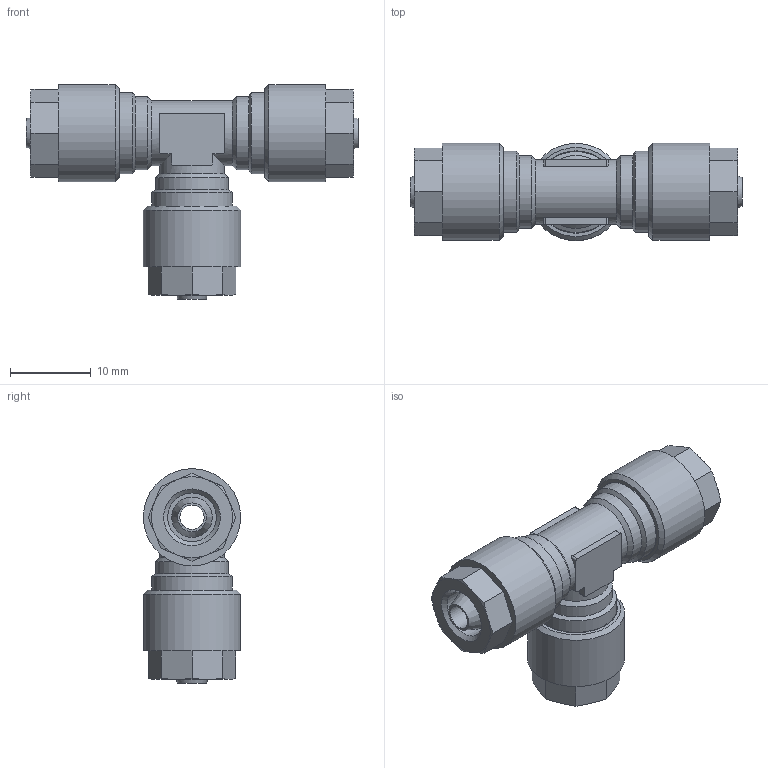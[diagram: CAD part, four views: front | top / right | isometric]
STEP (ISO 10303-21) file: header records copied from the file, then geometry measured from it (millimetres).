
FILE_DESCRIPTION(/* description */ (''),/* implementation_level */ '2;1');
FILE_NAME(/* name */ '12303_309_6-4_10.03.16',/* time_stamp */ '2016-03-10T10:52:13+01:00',/* author */ (''),/* organization */ (''),/* preprocessor_version */ 'ST-DEVELOPER v14',/* originating_system */ 'HiCAD 2013 1802.4 Build 509',/* authorisation */ '');
FILE_SCHEMA (('AUTOMOTIVE_DESIGN { 1 0 10303 214 1 1 1 1 }'));
Length unit declared in the file: millimetre
Products named in the file (5): Root; R12303; 17005
Assembly tree (4 placements, depth 2):
  Root
    R12303
    17005
    17005
    17005
Bounding box: 41 x 12 x 26.5 mm (x, y, z)
Volume: 3816.7 mm3; surface area: 4672.7 mm2
Topology: 4 solids, 4 shells, 167 faces, 398 edges, 253 vertices
Faces by surface type: plane 72, cone 48, cylinder 44, torus 3
Full cylindrical faces by diameter (mm): 3 x2, 4.5 x3, 6 x3, 8 x2, 8.773 x6, 9 x3, 10 x6, 12 x3
Entity records: 10314 total; most frequent: CARTESIAN_POINT 3547, DIRECTION 820, PRESENTATION_STYLE_ASSIGNMENT 626, COLOUR_RGB 624, DRAUGHTING_PRE_DEFINED_CURVE_FONT 622, CURVE_STYLE 622, OVER_RIDING_STYLED_ITEM 622, ORIENTED_EDGE 622
